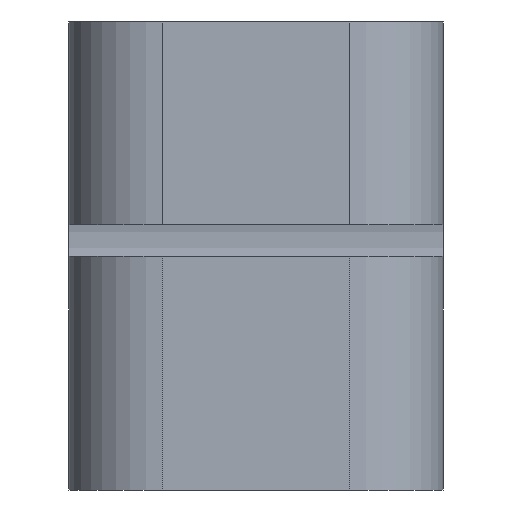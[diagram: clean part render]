
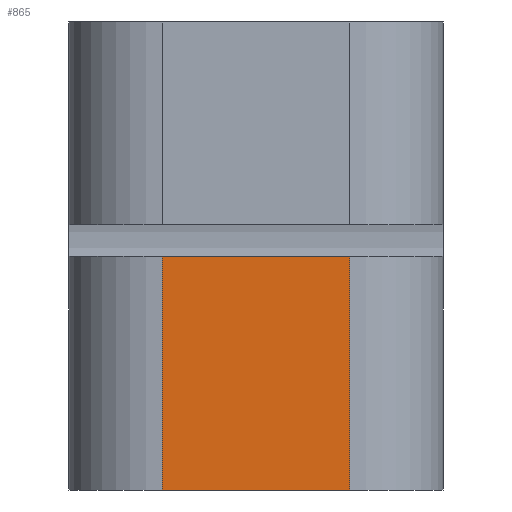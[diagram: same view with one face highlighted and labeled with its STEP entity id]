
A CAD part, left-side view. The second image highlights one B-rep face of the part: STEP entity #865.
In plain terms, the highlighted planar face has unit normal (-1, 0, 0).
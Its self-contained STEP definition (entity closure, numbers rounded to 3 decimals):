
#53=PLANE('',#983);
#99=FACE_OUTER_BOUND('',#155,.T.);
#155=EDGE_LOOP('',(#777,#778,#779,#780));
#201=LINE('',#1381,#267);
#202=LINE('',#1385,#268);
#208=LINE('',#1406,#274);
#228=LINE('',#1526,#294);
#267=VECTOR('',#1107,10.);
#268=VECTOR('',#1112,10.);
#274=VECTOR('',#1138,10.);
#294=VECTOR('',#1246,10.);
#397=VERTEX_POINT('',#1378);
#398=VERTEX_POINT('',#1380);
#399=VERTEX_POINT('',#1384);
#404=VERTEX_POINT('',#1404);
#494=EDGE_CURVE('',#397,#398,#201,.T.);
#496=EDGE_CURVE('',#399,#398,#202,.T.);
#508=EDGE_CURVE('',#399,#404,#208,.T.);
#550=EDGE_CURVE('',#404,#397,#228,.T.);
#777=ORIENTED_EDGE('',*,*,#494,.F.);
#778=ORIENTED_EDGE('',*,*,#550,.F.);
#779=ORIENTED_EDGE('',*,*,#508,.F.);
#780=ORIENTED_EDGE('',*,*,#496,.T.);
#865=ADVANCED_FACE('',(#99),#53,.T.);
#983=AXIS2_PLACEMENT_3D('',#1525,#1244,#1245);
#1107=DIRECTION('',(0.,0.,1.));
#1112=DIRECTION('',(0.,1.,0.));
#1138=DIRECTION('',(0.,0.,-1.));
#1244=DIRECTION('center_axis',(-1.,0.,0.));
#1245=DIRECTION('ref_axis',(0.,0.,1.));
#1246=DIRECTION('',(0.,1.,0.));
#1378=CARTESIAN_POINT('',(-33.,3.,0.));
#1380=CARTESIAN_POINT('',(-33.,3.,7.5));
#1381=CARTESIAN_POINT('',(-33.,3.,3.75));
#1384=CARTESIAN_POINT('',(-33.,-3.,7.5));
#1385=CARTESIAN_POINT('',(-33.,0.,7.5));
#1404=CARTESIAN_POINT('',(-33.,-3.,0.));
#1406=CARTESIAN_POINT('',(-33.,-3.,3.75));
#1525=CARTESIAN_POINT('Origin',(-33.,0.,0.));
#1526=CARTESIAN_POINT('',(-33.,0.,0.));
